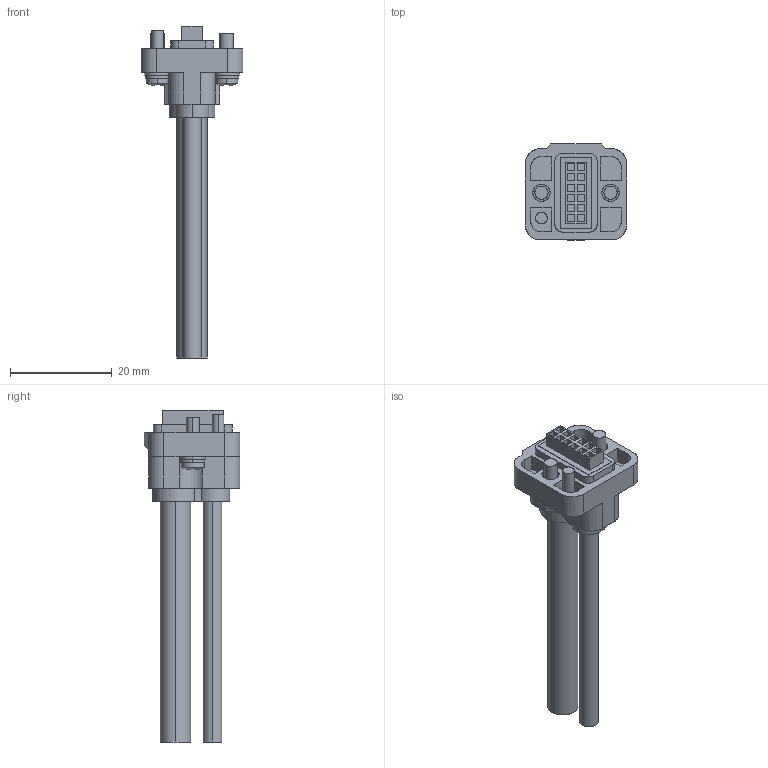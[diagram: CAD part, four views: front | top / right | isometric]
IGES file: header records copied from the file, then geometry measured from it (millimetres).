
Start section: SolidWorks IGES file using analytic representation for surfaces
Global section: file name: C:\Users\4047369\Desktop\取説\01_HL-G2\外形図(2D、3D)\3D\オプションケーブル(Ethernet)\cn-8e-c2.IGS; native system: SolidWorks 2022; preprocessor: SolidWorks 2022; author: 4047369; date: 240116.145748; units: millimetre
Bounding box: 20 x 18.9 x 65.4 mm (x, y, z)
Surface area: 3887.1 mm2 (no closed solid volume)
Topology: 0 solids, 0 shells, 203 faces, 2128 edges, 2128 vertices
Faces by surface type: bspline 155, revolution 48
